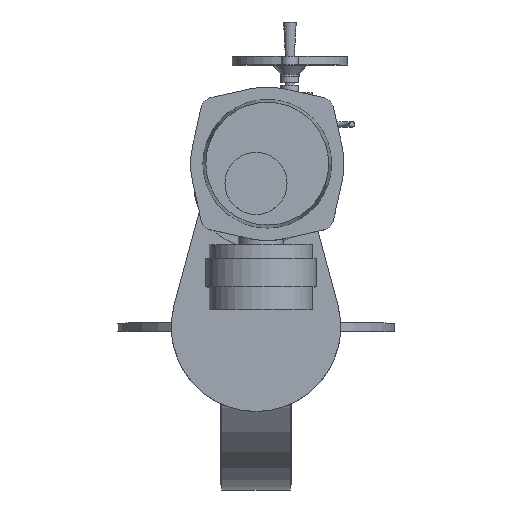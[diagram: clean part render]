
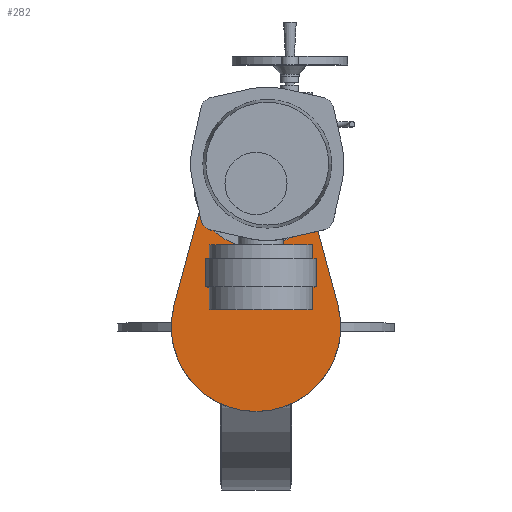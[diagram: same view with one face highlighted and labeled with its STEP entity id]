
A CAD part, top view. The second image highlights one B-rep face of the part: STEP entity #282.
In plain terms, the highlighted planar face has unit normal (0, 0, 1).
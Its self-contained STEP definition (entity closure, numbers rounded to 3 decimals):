
#282=ADVANCED_FACE('',(#2206),#2208,.F.);
#2206=FACE_BOUND('',#2207,.T.);
#2207=EDGE_LOOP('',(#3784,#3785,#3786,#3787,#3788));
#2208=PLANE('',#2209);
#2209=AXIS2_PLACEMENT_3D('',#2210,#2211,#2212);
#2210=CARTESIAN_POINT('',(20.,288.,560.));
#2211=DIRECTION('',(0.,0.,-1.));
#2212=DIRECTION('',(0.,1.,0.));
#3784=ORIENTED_EDGE('',*,*,#4624,.T.);
#3785=ORIENTED_EDGE('',*,*,#4625,.F.);
#3786=ORIENTED_EDGE('',*,*,#4589,.F.);
#3787=ORIENTED_EDGE('',*,*,#4588,.F.);
#3788=ORIENTED_EDGE('',*,*,#4626,.F.);
#4588=EDGE_CURVE('',#5057,#5058,#5059,.T.);
#4589=EDGE_CURVE('',#5058,#5060,#5061,.T.);
#4624=EDGE_CURVE('',#5129,#5130,#5131,.F.);
#4625=EDGE_CURVE('',#5060,#5130,#5132,.T.);
#4626=EDGE_CURVE('',#5129,#5057,#5133,.T.);
#5057=VERTEX_POINT('',#5937);
#5058=VERTEX_POINT('',#5938);
#5059=CIRCLE('',#5939,150.);
#5060=VERTEX_POINT('',#5943);
#5061=CIRCLE('',#5944,150.);
#5129=VERTEX_POINT('',#6203);
#5130=VERTEX_POINT('',#6204);
#5131=CIRCLE('',#6205,85.);
#5132=LINE('',#6209,#6210);
#5133=LINE('',#6212,#6213);
#5937=CARTESIAN_POINT('',(144.841,39.,560.));
#5938=CARTESIAN_POINT('',(0.,-150.,560.));
#5939=AXIS2_PLACEMENT_3D('',#5940,#5941,#5942);
#5940=CARTESIAN_POINT('',(0.,0.,560.));
#5941=DIRECTION('',(0.,0.,-1.));
#5942=DIRECTION('',(0.966,0.26,0.));
#5943=CARTESIAN_POINT('',(-144.841,39.,560.));
#5944=AXIS2_PLACEMENT_3D('',#5945,#5946,#5947);
#5945=CARTESIAN_POINT('',(0.,0.,560.));
#5946=DIRECTION('',(0.,0.,-1.));
#5947=DIRECTION('',(0.,-1.,0.));
#6203=CARTESIAN_POINT('',(82.077,272.1,560.));
#6204=CARTESIAN_POINT('',(-82.077,272.1,560.));
#6205=AXIS2_PLACEMENT_3D('',#6206,#6207,#6208);
#6206=CARTESIAN_POINT('',(0.,250.,560.));
#6207=DIRECTION('',(0.,0.,1.));
#6208=DIRECTION('',(-0.966,0.26,0.));
#6209=CARTESIAN_POINT('',(-144.841,39.,560.));
#6210=VECTOR('',#6211,1.);
#6211=DIRECTION('',(0.26,0.966,0.));
#6212=CARTESIAN_POINT('',(82.077,272.1,560.));
#6213=VECTOR('',#6214,1.);
#6214=DIRECTION('',(0.26,-0.966,0.));
